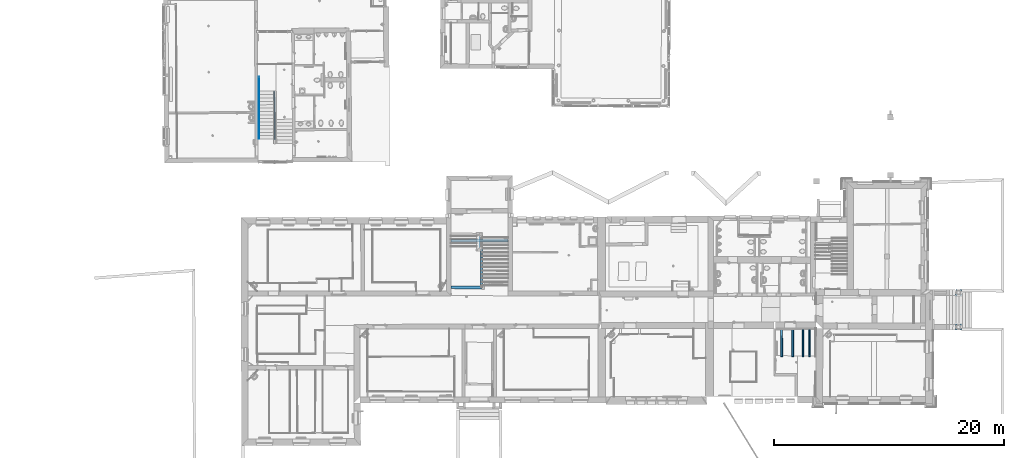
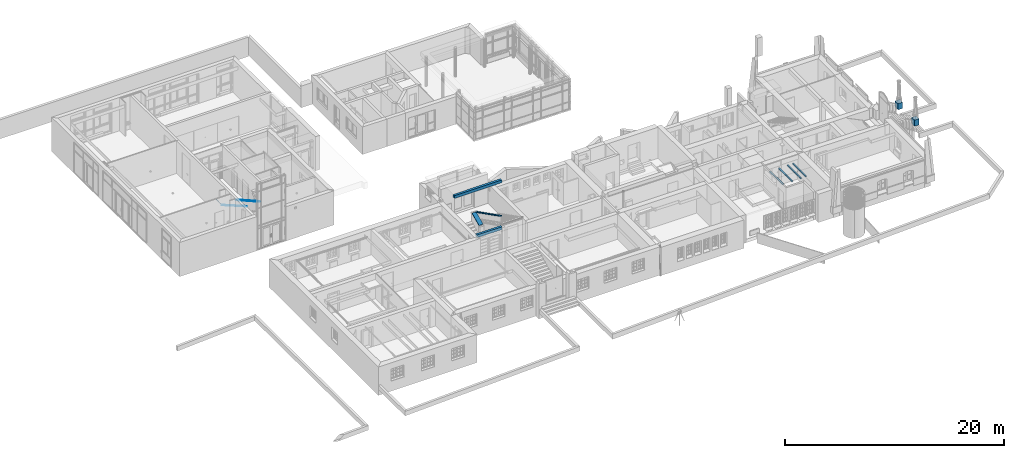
# One storey, part 7 of 196: 11 beams, 2 columns.
"""IFC2X3 building model written with IfcOpenShell, lengths in metres."""

import ifcopenshell
import ifcopenshell.guid

model = None  # the IFC model being written
_history = None  # IfcOwnerHistory: only IFC2X3 demands one
_inside = {}  # id of a spatial element -> (the spatial element, [elements in it])
_under = {}  # id of a project, library or spatial element -> (it, [spatial elements below it])
_declared = {}  # id of a project -> (the project, [libraries it declares])
_typed = {}  # id of a type object -> (the type object, [elements of that type])
_made_of = {}  # id of a material, layer set ... -> (it, [elements and type objects made of it])


def new_model(schema):
    """Start an empty IFC model of exactly this schema.

    Asked for "IFC4X3", IfcOpenShell would pick the latest addendum, in which some entities
    have other attributes; the version numbers below select the first issue.
    IFC2X3 requires an IfcOwnerHistory on every rooted entity: one is made here for all.
    """
    global model, _history
    if schema == "IFC4X3":
        model = ifcopenshell.file(schema_version=(4, 3, 0, 0))
    else:
        model = ifcopenshell.file(schema=schema)
    _inside.clear()
    _under.clear()
    _declared.clear()
    _typed.clear()
    _made_of.clear()
    _history = None
    if model.schema == "IFC2X3":
        org = make("IfcOrganization", Name="unknown")
        user = make(
            "IfcPersonAndOrganization",
            ThePerson=make("IfcPerson", FamilyName="unknown"),
            TheOrganization=org,
        )
        app = make(
            "IfcApplication",
            ApplicationDeveloper=org,
            Version="unknown",
            ApplicationFullName="unknown",
            ApplicationIdentifier="unknown",
        )
        _history = make(
            "IfcOwnerHistory",
            OwningUser=user,
            OwningApplication=app,
            ChangeAction="ADDED",
            CreationDate=0,
        )
    return model


def make(cls, **values):
    """One entity of the class cls with the attributes given. An attribute that is None is left unset."""
    return model.create_entity(
        cls, **{name: value for name, value in values.items() if value is not None}
    )


def entity(cls, *values):
    """Any entity or typed value of the class cls, its attributes in the order of the schema. None: left unset."""
    e = model.create_entity(cls)
    for i, value in enumerate(values):
        if value is not None:
            e[i] = value
    return e


def rooted(cls, **values):
    """An entity with a GlobalId (a new one), such as an element, a storey or a relation."""
    return make(cls, GlobalId=ifcopenshell.guid.new(), OwnerHistory=_history, **values)


def si_unit(unit_type, name, prefix=None):
    """IfcSIUnit, for example si_unit("LENGTHUNIT", "METRE", prefix="MILLI")."""
    return make("IfcSIUnit", UnitType=unit_type, Prefix=prefix, Name=name)


def converted_unit(unit_type, name, factor, base, dimensions=None, offset=None):
    """IfcConversionBasedUnit, such as the inch: factor (a typed value) times the base unit."""
    return make(
        "IfcConversionBasedUnit"
        if offset is None
        else "IfcConversionBasedUnitWithOffset",
        ConversionOffset=offset,
        Dimensions=None
        if dimensions is None
        else entity("IfcDimensionalExponents", *dimensions),
        UnitType=unit_type,
        Name=name,
        ConversionFactor=make(
            "IfcMeasureWithUnit", ValueComponent=factor, UnitComponent=base
        ),
    )


def derived_unit(unit_type, elements):
    """IfcDerivedUnit: a product of units, each with its exponent."""
    return make(
        "IfcDerivedUnit",
        Elements=[
            make("IfcDerivedUnitElement", Unit=unit, Exponent=power)
            for unit, power in elements
        ],
        UnitType=unit_type,
    )


def money_unit(currency):
    """IfcMonetaryUnit."""
    return make("IfcMonetaryUnit", Currency=currency)


def assignment(units):
    """IfcUnitAssignment: the units of a project."""
    return None if units is None else make("IfcUnitAssignment", Units=units)


def point(xyz):
    """IfcCartesianPoint."""
    return None if xyz is None else make("IfcCartesianPoint", Coordinates=xyz)


def direction(xyz):
    """IfcDirection."""
    return None if xyz is None else make("IfcDirection", DirectionRatios=xyz)


def frame(location, z_axis=None, x_axis=None):
    """IfcAxis2Placement3D, a coordinate frame: its origin and axes. An axis left out is left unset."""
    return make(
        "IfcAxis2Placement3D",
        Location=point(location),
        Axis=direction(z_axis),
        RefDirection=direction(x_axis),
    )


def frame_2d(location, x_axis=None):
    """IfcAxis2Placement2D, a coordinate frame in the plane: its origin and x axis."""
    return make(
        "IfcAxis2Placement2D", Location=point(location), RefDirection=direction(x_axis)
    )


def origin_with_axes():
    """The frame at (0, 0, 0) with the z axis (0, 0, 1) and the x axis (1, 0, 0) written out."""
    return frame((0.0, 0.0, 0.0), z_axis=(0.0, 0.0, 1.0), x_axis=(1.0, 0.0, 0.0))


def origin_2d_with_axis():
    """The frame at (0, 0) in the plane with the x axis (1, 0) written out."""
    return frame_2d((0.0, 0.0), x_axis=(1.0, 0.0))


def place(relative_to, where):
    """IfcLocalPlacement: puts the frame where relative to a parent placement (None: the world)."""
    return make(
        "IfcLocalPlacement", PlacementRelTo=relative_to, RelativePlacement=where
    )


def context(
    kind, dimensions, precision=None, world=None, true_north=None, identifier=None
):
    """IfcGeometricRepresentationContext, for example the 3D "Model" context."""
    return make(
        "IfcGeometricRepresentationContext",
        ContextIdentifier=identifier,
        ContextType=kind,
        CoordinateSpaceDimension=dimensions,
        Precision=precision,
        WorldCoordinateSystem=world,
        TrueNorth=true_north,
    )


def subcontext(parent, identifier, kind, view, scale=None):
    """IfcGeometricRepresentationSubContext, for example "Body" below "Model"."""
    return make(
        "IfcGeometricRepresentationSubContext",
        ContextIdentifier=identifier,
        ContextType=kind,
        ParentContext=parent,
        TargetScale=scale,
        TargetView=view,
    )


def project(units=None, contexts=None):
    """IfcProject with its units and contexts."""
    return rooted(
        "IfcProject",
        Name="project",
        RepresentationContexts=contexts,
        UnitsInContext=assignment(units),
    )


def spatial(cls, under=None, at=None, **own):
    """A site, building, storey or space (cls), placed at a placement, below another one or the project."""
    s = rooted(cls, ObjectPlacement=at, **own)
    if under is not None:
        _under.setdefault(under.id(), (under, []))[1].append(s)
    return s


def profile(cls, at=None, kind="AREA", **sizes):
    """A parametric profile (cls). Its sizes go by their IFC names, for example OverallWidth=200.0."""
    return make(cls, ProfileType=kind, Position=at, **sizes)


def rectangle(**sizes):
    """IfcRectangleProfileDef."""
    return profile("IfcRectangleProfileDef", **sizes)


def extrude(swept, where, along, depth):
    """IfcExtrudedAreaSolid: the profile swept, set in the frame where, extruded along a direction by depth."""
    return make(
        "IfcExtrudedAreaSolid",
        SweptArea=swept,
        Position=where,
        ExtrudedDirection=direction(along),
        Depth=depth,
    )


def clip(a, b, op="DIFFERENCE"):
    """IfcBooleanClippingResult: the solid a cut by the half space b."""
    return make(
        "IfcBooleanClippingResult", Operator=op, FirstOperand=a, SecondOperand=b
    )


def halfspace(plane, agree):
    """IfcHalfSpaceSolid: all space on one side of the plane z = 0 of the frame plane."""
    return make(
        "IfcHalfSpaceSolid",
        BaseSurface=make("IfcPlane", Position=plane),
        AgreementFlag=agree,
    )


def shape(context_of_items, identifier, shape_type, items):
    """IfcShapeRepresentation: the items that make up one representation, for example the "Body"."""
    return make(
        "IfcShapeRepresentation",
        ContextOfItems=context_of_items,
        RepresentationIdentifier=identifier,
        RepresentationType=shape_type,
        Items=items,
    )


def material(Name=None, Category=None):
    """IfcMaterial."""
    return make("IfcMaterial", Name=Name, Category=Category)


def made_of(thing, what):
    """Note that an element or type object is made of a material, layer set ...; save() writes the relation."""
    if what is not None:
        _made_of.setdefault(what.id(), (what, []))[1].append(thing)
    return thing


def type_object(cls, material=None, **own):
    """A type object (cls), such as IfcWallType, which elements share."""
    return made_of(rooted(cls, **own), material)


def element(
    cls,
    number,
    at=None,
    inside=None,
    cuts=None,
    type_object=None,
    material=None,
    context=None,
    identifier="Body",
    shape_type=None,
    held_by="IfcProductDefinitionShape",
    body=None,
    shapes=None,
    **own,
):
    """One element of the class cls, such as IfcWall. Its Tag is "e" and its number.

    at: its placement. inside: the storey or other place that contains it. cuts: it is an
    opening in that element (IfcRelVoidsElement). A single representation is given by context,
    identifier, shape_type and body (its items); several are given by shapes. held_by: the class
    of the entity that holds the representations. save() writes the other relations.
    """
    e = rooted(cls, Tag="e%d" % number, ObjectPlacement=at, **own)
    if body is not None:
        shapes = [shape(context, identifier, shape_type, body)]
    if shapes is not None:
        e.Representation = make(held_by, Representations=shapes)
    if inside is not None:
        _inside.setdefault(inside.id(), (inside, []))[1].append(e)
    if cuts is not None:
        rooted(
            "IfcRelVoidsElement", RelatingBuildingElement=cuts, RelatedOpeningElement=e
        )
    if type_object is not None:
        _typed.setdefault(type_object.id(), (type_object, []))[1].append(e)
    return made_of(e, material)


def aggregate(whole, parts):
    """IfcRelAggregates: a whole, such as a stair, and the parts it consists of."""
    return rooted("IfcRelAggregates", RelatingObject=whole, RelatedObjects=parts)


def save(model, path):
    """Write the relations noted so far, then the file.

    IfcRelAggregates (storeys below a building ...), IfcRelContainedInSpatialStructure (elements
    in a storey), IfcRelDefinesByType, IfcRelAssociatesMaterial and IfcRelDeclares: one each for
    every whole, place, type object, material and project.
    """
    for whole, parts in _under.values():
        aggregate(whole, parts)
    for where, things in _inside.values():
        rooted(
            "IfcRelContainedInSpatialStructure",
            RelatedElements=things,
            RelatingStructure=where,
        )
    for kind, things in _typed.values():
        rooted("IfcRelDefinesByType", RelatedObjects=things, RelatingType=kind)
    for what, things in _made_of.values():
        rooted("IfcRelAssociatesMaterial", RelatedObjects=things, RelatingMaterial=what)
    for by, libraries in _declared.values():
        rooted("IfcRelDeclares", RelatingContext=by, RelatedDefinitions=libraries)
    model.write(path)


model = new_model("IFC2X3")

# Units and contexts
model_context = context("Model", 3, precision=1e-05, world=origin_with_axes(), true_north=direction((0.0, 1.0)))
body_context = subcontext(model_context, "Body", "Model", "MODEL_VIEW")
ifc_project = project(units=[si_unit("LENGTHUNIT", "METRE"), si_unit("AREAUNIT", "SQUARE_METRE"), si_unit("VOLUMEUNIT", "CUBIC_METRE"), converted_unit("PLANEANGLEUNIT", "DEGREE", entity("IfcPlaneAngleMeasure", 0.0174532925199), si_unit("PLANEANGLEUNIT", "RADIAN"), dimensions=[0, 0, 0, 0, 0, 0, 0]), money_unit("EUR"), converted_unit("TIMEUNIT", "Year", entity("IfcTimeMeasure", 31556926.0), si_unit("TIMEUNIT", "SECOND"), dimensions=[0, 0, 1, 0, 0, 0, 0]), si_unit("MASSUNIT", "GRAM", prefix="KILO"), si_unit("THERMODYNAMICTEMPERATUREUNIT", "DEGREE_CELSIUS"), si_unit("LUMINOUSINTENSITYUNIT", "LUMEN"), si_unit("ENERGYUNIT", "JOULE", prefix="MEGA"), derived_unit("THERMALCONDUCTANCEUNIT", [(si_unit("POWERUNIT", "WATT"), 1), (si_unit("LENGTHUNIT", "METRE"), -1), (si_unit("THERMODYNAMICTEMPERATUREUNIT", "KELVIN"), -1)]), derived_unit("SPECIFICHEATCAPACITYUNIT", [(si_unit("ENERGYUNIT", "JOULE"), 1), (si_unit("MASSUNIT", "GRAM", prefix="KILO"), -1), (si_unit("THERMODYNAMICTEMPERATUREUNIT", "KELVIN"), -1)]), derived_unit("MASSDENSITYUNIT", [(si_unit("MASSUNIT", "GRAM", prefix="KILO"), 1), (si_unit("VOLUMEUNIT", "CUBIC_METRE"), -1)])], contexts=[model_context])

# Site, building, storey
site_placement = place(None, origin_with_axes())
site = spatial("IfcSite", under=ifc_project, at=site_placement, Name="Gelände", CompositionType="ELEMENT")
building_placement = place(site_placement, origin_with_axes())
building = spatial("IfcBuilding", under=site, at=building_placement, Name="Gebäude", CompositionType="ELEMENT")
storey_placement = place(building_placement, frame((0.0, 0.0, -3.0), z_axis=(0.0, 0.0, 1.0), x_axis=(1.0, 0.0, 0.0)))
storey = spatial("IfcBuildingStorey", under=building, at=storey_placement, Name="KELLERGESCHOSS", CompositionType="ELEMENT", Elevation=-3.0)

# Columns
ifc_material_1 = material(Name="05_ALLGEMEIN - TRAGENDE BAUTEILE")
column_type = type_object("IfcColumnType", Name="05_ALLGEMEIN - TRAGENDE BAUTEILE 490 x 535", PredefinedType="USERDEFINED")
for number, where, z_axis, x_axis in (
    (1, (34.374703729, 16.5418759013, 1.68611748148), (0.0, 0.0, 1.0), (1.0, 0.0, 0.0)),
    (2, (34.3810278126, 19.5485995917, 1.69665148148), (0.0, 0.0, 1.0), (1.0, 0.0, 0.0)),
):
    element("IfcColumn", number, at=place(storey_placement, frame(where, z_axis=z_axis, x_axis=x_axis)), inside=storey, type_object=column_type, material=ifc_material_1, Name="Stütze-008", ObjectType="PILASTER", context=body_context, shape_type="SweptSolid", body=[
        extrude(rectangle(XDim=0.49, YDim=0.534678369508, at=origin_2d_with_axis()), frame((0.0, 0.0, 0.0), z_axis=(0.0, 0.0, 1.0), x_axis=(-0.999928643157, 0.0119460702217, 0.0)), (0.0, 0.0, 1.0), 0.673103),
    ])

# Beams
beam_type_1 = type_object("IfcBeamType", Name="05_ALLGEMEIN - TRAGENDE BAUTEILE 90 x 50", PredefinedType="LINTEL")
beam_1_placement = place(storey_placement, frame((-25.2694180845, 37.1020882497, 1.67359677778), z_axis=(0.0, 0.0, 1.0), x_axis=(-0.999963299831, -0.00856732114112, 0.0)))
element("IfcBeam", 3, at=beam_1_placement, inside=storey, type_object=beam_type_1, material=ifc_material_1, Name="Unterzug-003", ObjectType="LINTEL", context=body_context, shape_type="Clipping", body=[
    clip(clip(extrude(rectangle(XDim=0.05, YDim=0.09, at=frame_2d((-0.025, -0.045), x_axis=(1.0, 0.0))), frame((0.0, -0.0345854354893, -0.019394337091), z_axis=(0.0, 0.872221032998, 0.489111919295), x_axis=(0.0, -0.489111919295, 0.872221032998)), (0.0, 0.0, 1.0), 4.95824352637), halfspace(frame((0.0, 0.0, 0.0), z_axis=(0.0, 1.0, 0.0), x_axis=(0.0, 0.0, 1.0)), True)), halfspace(frame((0.0, 4.25551341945, 0.0), z_axis=(0.0, -1.0, 0.0), x_axis=(0.0, 0.0, -1.0)), True)),
])
ifc_material_2 = material(Name="01_ALLGEMEIN - BAUTEIL")
beam_type_2 = type_object("IfcBeamType", Name="01_ALLGEMEIN - BAUTEIL 40 x 40", PredefinedType="LINTEL")
beam_2_placement = place(storey_placement, frame((-26.569194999, 38.3474976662, 1.42714877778), z_axis=(0.0, 0.0, 1.0), x_axis=(-0.999985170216, -0.00544603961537, 0.0)))
element("IfcBeam", 4, at=beam_2_placement, inside=storey, type_object=beam_type_2, material=ifc_material_2, Name="Unterzug-006", ObjectType="LINTEL", context=body_context, shape_type="Clipping", body=[
    clip(clip(extrude(rectangle(XDim=0.04, YDim=0.04, at=frame_2d((-0.02, 0.02), x_axis=(1.0, 0.0))), frame((0.0, -0.000312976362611, 1.73162854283e-06), z_axis=(0.0, 0.999984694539, -0.00553269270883), x_axis=(0.0, 0.00553269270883, 0.999984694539)), (0.0, 0.0, 1.0), 0.999416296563), halfspace(frame((0.0, 0.0, 0.0), z_axis=(0.0, 1.0, 0.0), x_axis=(0.0, 0.0, 1.0)), True)), halfspace(frame((0.0, 0.99877504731, 0.0), z_axis=(0.0, -1.0, 0.0), x_axis=(0.0, 0.0, -1.0)), True)),
])
beam_3_placement = place(storey_placement, frame((-26.5637563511, 37.3488697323, 1.42179477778), z_axis=(0.0, 0.0, 1.0), x_axis=(-0.999985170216, -0.00544603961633, 0.0)))
element("IfcBeam", 5, at=beam_3_placement, inside=storey, type_object=beam_type_2, material=ifc_material_2, Name="Unterzug-007", ObjectType="LINTEL", context=body_context, shape_type="Clipping", body=[
    clip(clip(extrude(rectangle(XDim=0.04, YDim=0.04, at=frame_2d((-0.02, 0.02), x_axis=(1.0, 0.0))), frame((0.0, -0.0281235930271, -0.0161145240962), z_axis=(0.0, 0.867659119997, 0.497159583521), x_axis=(0.0, -0.497159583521, 0.867659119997)), (0.0, 0.0, 1.0), 5.14726954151), halfspace(frame((0.0, 0.0, 0.0), z_axis=(0.0, 1.0, 0.0), x_axis=(0.0, 0.0, 1.0)), True)), halfspace(frame((0.0, 4.40982817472, 0.0), z_axis=(0.0, -1.0, 0.0), x_axis=(0.0, 0.0, -1.0)), True)),
])
beam_type_3 = type_object("IfcBeamType", Name="05_ALLGEMEIN - TRAGENDE BAUTEILE 145 x 69", PredefinedType="LINTEL")
beam_4_placement = place(storey_placement, frame((-7.24800524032, 24.5957499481, 1.5346324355), z_axis=(0.0, 0.0, 1.0), x_axis=(-0.999999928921, 0.000377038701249, 0.0)))
element("IfcBeam", 6, at=beam_4_placement, inside=storey, type_object=beam_type_3, material=ifc_material_1, Name="Unterzug-021", ObjectType="LINTEL", context=body_context, shape_type="Clipping", body=[
    clip(clip(extrude(rectangle(XDim=0.0688632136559, YDim=0.145, at=frame_2d((0.034431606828, -0.0725), x_axis=(1.0, 0.0))), frame((0.0, -0.0441944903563, -0.0225064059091), z_axis=(0.0, 0.891102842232, 0.453801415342), x_axis=(0.0, -0.453801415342, 0.891102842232)), (0.0, 0.0, 1.0), 5.12697243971), halfspace(frame((0.0, 0.0, 0.0), z_axis=(0.0, 1.0, 0.0), x_axis=(0.0, 0.0, 1.0)), True)), halfspace(frame((0.0, 4.48027073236, 0.0), z_axis=(0.0, -1.0, 0.0), x_axis=(0.0, 0.0, -1.0)), True)),
])
beam_type_4 = type_object("IfcBeamType", Name="05_ALLGEMEIN - TRAGENDE BAUTEILE 245 x 298", PredefinedType="LINTEL")
beam_5_placement = place(storey_placement, frame((-7.19286645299, 19.8738470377, 2.4924074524), z_axis=(0.0, 0.0, 1.0), x_axis=(0.00177767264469, 0.999998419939, 0.0)))
element("IfcBeam", 7, at=beam_5_placement, inside=storey, type_object=beam_type_4, material=ifc_material_1, Name="Unterzug-021", ObjectType="LINTEL", context=body_context, shape_type="SweptSolid", body=[
    extrude(rectangle(XDim=0.297594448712, YDim=0.244981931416, at=frame_2d((0.148797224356, 0.122490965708), x_axis=(1.0, 0.0))), frame((0.0, 0.0, 0.0), z_axis=(0.0, 1.0, 0.0), x_axis=(0.0, 0.0, 1.0)), (0.0, 0.0, 1.0), 2.65162659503),
])
beam_type_5 = type_object("IfcBeamType", Name="05_ALLGEMEIN - TRAGENDE BAUTEILE 436 x 80", PredefinedType="LINTEL")
beam_6_placement = place(storey_placement, frame((-7.62855422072, 23.3239344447, 0.999201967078), z_axis=(0.0, 0.0, 1.0), x_axis=(0.999989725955, 0.00453298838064, 0.0)))
element("IfcBeam", 8, at=beam_6_placement, inside=storey, type_object=beam_type_5, material=ifc_material_1, Name="Unterzug-023", ObjectType="LINTEL", context=body_context, shape_type="Clipping", body=[
    clip(clip(extrude(rectangle(XDim=0.08, YDim=0.435692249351, at=frame_2d((-0.04, 0.217846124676), x_axis=(1.0, 0.0))), frame((0.0, -0.0489801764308, -0.0235236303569), z_axis=(0.0, 0.901428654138, 0.432927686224), x_axis=(0.0, -0.432927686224, 0.901428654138)), (0.0, 0.0, 1.0), 1.51365292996), halfspace(frame((0.0, 0.0, 0.0), z_axis=(0.0, 1.0, 0.0), x_axis=(0.0, 0.0, 1.0)), True)), halfspace(frame((0.0, 1.26648977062, 0.0), z_axis=(0.0, -1.0, 0.0), x_axis=(0.0, 0.0, -1.0)), True)),
])
beam_type_6 = type_object("IfcBeamType", Name="05_ALLGEMEIN - TRAGENDE BAUTEILE 241 x 310", PredefinedType="LINTEL")
beam_7_placement = place(storey_placement, frame((-9.85078820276, 23.9426730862, 4.40043633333), z_axis=(0.0, 0.0, 1.0), x_axis=(0.00443879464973, -0.999990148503, 0.0)))
element("IfcBeam", 9, at=beam_7_placement, inside=storey, type_object=beam_type_6, material=ifc_material_1, Name="Unterzug-023", ObjectType="LINTEL", context=body_context, shape_type="SweptSolid", body=[
    extrude(rectangle(XDim=0.309563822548, YDim=0.240856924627, at=frame_2d((0.154781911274, -0.120428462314), x_axis=(1.0, 0.0))), frame((0.0, 0.0, 0.0), z_axis=(0.0, 1.0, 0.0), x_axis=(0.0, 0.0, 1.0)), (0.0, 0.0, 1.0), 4.99532293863),
])
beam_type_7 = type_object("IfcBeamType", Name="05_ALLGEMEIN - TRAGENDE BAUTEILE 150 x 105", PredefinedType="LINTEL")
beam_8_placement = place(storey_placement, frame((20.0186991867, 13.9731142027, 1.8835925), z_axis=(0.0, 0.0, 1.0), x_axis=(0.999998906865, 0.00147860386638, 0.0)))
element("IfcBeam", 10, at=beam_8_placement, inside=storey, type_object=beam_type_7, material=ifc_material_1, Name="Unterzug-024", ObjectType="LINTEL", context=body_context, shape_type="Clipping", body=[
    clip(clip(extrude(rectangle(XDim=0.105, YDim=0.15, at=frame_2d((0.0525, -0.075), x_axis=(1.0, 0.0))), frame((0.0, -0.000453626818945, 1.38578282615e-06), z_axis=(0.0, 0.999995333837, -0.0030548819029), x_axis=(0.0, 0.0030548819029, 0.999995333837)), (0.0, 0.0, 1.0), 2.39969065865), halfspace(frame((0.0, 0.0, 0.0), z_axis=(0.0, 1.0, 0.0), x_axis=(0.0, 0.0, 1.0)), True)), halfspace(frame((0.0, 2.39877220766, 0.0), z_axis=(0.0, -1.0, 0.0), x_axis=(0.0, 0.0, -1.0)), True)),
])
beam_9_placement = place(storey_placement, frame((19.0340789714, 16.355294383, 1.8548975), z_axis=(0.0, 0.0, 1.0), x_axis=(-0.999946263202, -0.0103668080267, 0.0)))
element("IfcBeam", 11, at=beam_9_placement, inside=storey, type_object=beam_type_7, material=ifc_material_1, Name="Unterzug-025", ObjectType="LINTEL", context=body_context, shape_type="Clipping", body=[
    clip(clip(extrude(rectangle(XDim=0.105, YDim=0.15, at=frame_2d((0.0525, 0.075), x_axis=(1.0, 0.0))), frame((0.0, -0.00150079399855, -1.51691083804e-05), z_axis=(0.0, 0.99994892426, 0.0101068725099), x_axis=(0.0, -0.0101068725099, 0.99994892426)), (0.0, 0.0, 1.0), 2.38652839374), halfspace(frame((0.0, 0.0, 0.0), z_axis=(0.0, 1.0, 0.0), x_axis=(0.0, 0.0, 1.0)), True)), halfspace(frame((0.0, 2.38340491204, 0.0), z_axis=(0.0, -1.0, 0.0), x_axis=(0.0, 0.0, -1.0)), True)),
])
beam_type_8 = type_object("IfcBeamType", Name="05_ALLGEMEIN - TRAGENDE BAUTEILE 115 x 120", PredefinedType="LINTEL")
beam_10_placement = place(storey_placement, frame((20.7713878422, 13.9461845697, 1.9091115), z_axis=(0.0, 0.0, 1.0), x_axis=(0.999999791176, -0.000646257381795, 0.0)))
element("IfcBeam", 12, at=beam_10_placement, inside=storey, type_object=beam_type_8, material=ifc_material_1, Name="Unterzug-026", ObjectType="LINTEL", context=body_context, shape_type="Clipping", body=[
    clip(clip(extrude(rectangle(XDim=0.12, YDim=0.115, at=frame_2d((0.06, 0.0575), x_axis=(1.0, 0.0))), frame((0.0, -0.000717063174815, 3.02985937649e-06), z_axis=(0.0, 0.999991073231, -0.00422533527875), x_axis=(0.0, 0.00422533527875, 0.999991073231)), (0.0, 0.0, 1.0), 2.4121304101), halfspace(frame((0.0, 0.0, 0.0), z_axis=(0.0, 1.0, 0.0), x_axis=(0.0, 0.0, 1.0)), True)), halfspace(frame((0.0, 2.41067475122, 0.0), z_axis=(0.0, -1.0, 0.0), x_axis=(0.0, 0.0, -1.0)), True)),
])
beam_11_placement = place(storey_placement, frame((21.3472508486, 16.3711596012, 1.8990545), z_axis=(0.0, 0.0, 1.0), x_axis=(-0.999969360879, 0.00782798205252, 0.0)))
element("IfcBeam", 13, at=beam_11_placement, inside=storey, type_object=beam_type_8, material=ifc_material_1, Name="Unterzug-027", ObjectType="LINTEL", context=body_context, shape_type="Clipping", body=[
    clip(clip(extrude(rectangle(XDim=0.12, YDim=0.115, at=frame_2d((0.06, -0.0575), x_axis=(1.0, 0.0))), frame((0.0, -0.000507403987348, -1.51709734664e-06), z_axis=(0.0, 0.999995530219, 0.00298990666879), x_axis=(0.0, -0.00298990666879, 0.999995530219)), (0.0, 0.0, 1.0), 2.41647482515), halfspace(frame((0.0, 0.0, 0.0), z_axis=(0.0, 1.0, 0.0), x_axis=(0.0, 0.0, 1.0)), True)), halfspace(frame((0.0, 2.41544921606, 0.0), z_axis=(0.0, -1.0, 0.0), x_axis=(0.0, 0.0, -1.0)), True)),
])

save(model, "model.ifc")
